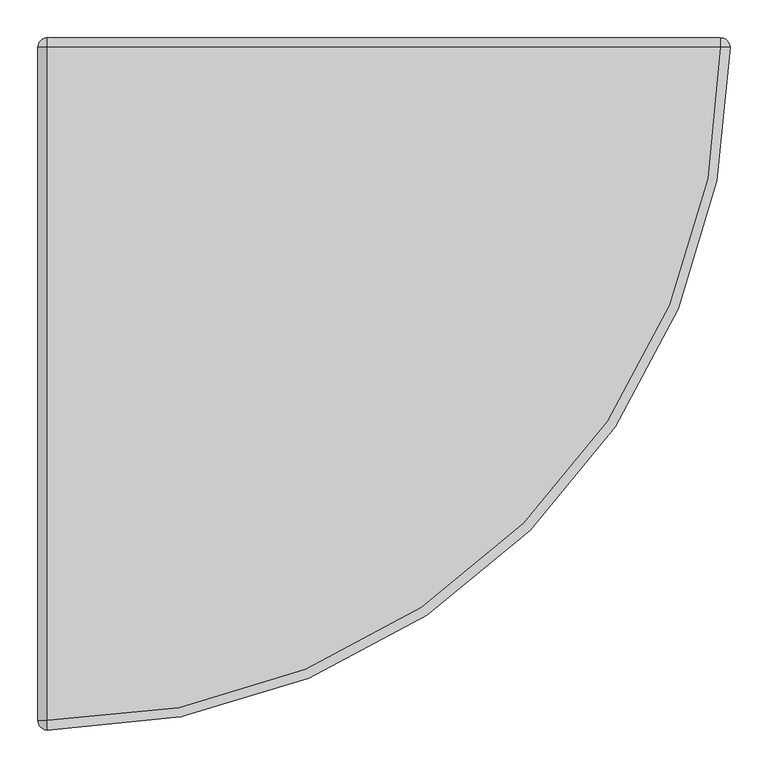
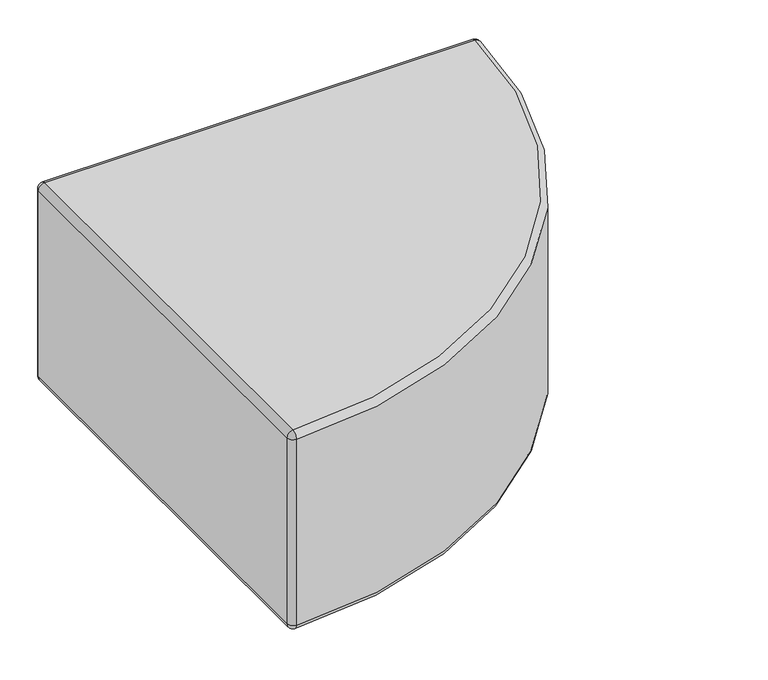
"""IFC4 building model written with IfcOpenShell, lengths in millimetres: furniture geometry, KFI Studios - Conversa - Corner Seat : KFI Studios - Conversa - Corner Seat."""

import ifcopenshell
import ifcopenshell.guid

model = None  # the IFC model being written
_history = None  # IfcOwnerHistory: only IFC2X3 demands one
_inside = {}  # id of a spatial element -> (the spatial element, [elements in it])
_under = {}  # id of a project, library or spatial element -> (it, [spatial elements below it])
_declared = {}  # id of a project -> (the project, [libraries it declares])
_typed = {}  # id of a type object -> (the type object, [elements of that type])
_made_of = {}  # id of a material, layer set ... -> (it, [elements and type objects made of it])


def new_model(schema):
    """Start an empty IFC model of exactly this schema.

    Asked for "IFC4X3", IfcOpenShell would pick the latest addendum, in which some entities
    have other attributes; the version numbers below select the first issue.
    IFC2X3 requires an IfcOwnerHistory on every rooted entity: one is made here for all.
    """
    global model, _history
    if schema == "IFC4X3":
        model = ifcopenshell.file(schema_version=(4, 3, 0, 0))
    else:
        model = ifcopenshell.file(schema=schema)
    _inside.clear()
    _under.clear()
    _declared.clear()
    _typed.clear()
    _made_of.clear()
    _history = None
    if model.schema == "IFC2X3":
        org = make("IfcOrganization", Name="unknown")
        user = make(
            "IfcPersonAndOrganization",
            ThePerson=make("IfcPerson", FamilyName="unknown"),
            TheOrganization=org,
        )
        app = make(
            "IfcApplication",
            ApplicationDeveloper=org,
            Version="unknown",
            ApplicationFullName="unknown",
            ApplicationIdentifier="unknown",
        )
        _history = make(
            "IfcOwnerHistory",
            OwningUser=user,
            OwningApplication=app,
            ChangeAction="ADDED",
            CreationDate=0,
        )
    return model


def make(cls, **values):
    """One entity of the class cls with the attributes given. An attribute that is None is left unset."""
    return model.create_entity(
        cls, **{name: value for name, value in values.items() if value is not None}
    )


def rooted(cls, **values):
    """An entity with a GlobalId (a new one), such as an element, a storey or a relation."""
    return make(cls, GlobalId=ifcopenshell.guid.new(), OwnerHistory=_history, **values)


def si_unit(unit_type, name, prefix=None):
    """IfcSIUnit, for example si_unit("LENGTHUNIT", "METRE", prefix="MILLI")."""
    return make("IfcSIUnit", UnitType=unit_type, Prefix=prefix, Name=name)


def assignment(units):
    """IfcUnitAssignment: the units of a project."""
    return None if units is None else make("IfcUnitAssignment", Units=units)


def point(xyz):
    """IfcCartesianPoint."""
    return None if xyz is None else make("IfcCartesianPoint", Coordinates=xyz)


def direction(xyz):
    """IfcDirection."""
    return None if xyz is None else make("IfcDirection", DirectionRatios=xyz)


def frame(location, z_axis=None, x_axis=None):
    """IfcAxis2Placement3D, a coordinate frame: its origin and axes. An axis left out is left unset."""
    return make(
        "IfcAxis2Placement3D",
        Location=point(location),
        Axis=direction(z_axis),
        RefDirection=direction(x_axis),
    )


def origin():
    """The frame at (0, 0, 0) with its axes left unset."""
    return frame((0.0, 0.0, 0.0))


def place(relative_to, where):
    """IfcLocalPlacement: puts the frame where relative to a parent placement (None: the world)."""
    return make(
        "IfcLocalPlacement", PlacementRelTo=relative_to, RelativePlacement=where
    )


def context(
    kind, dimensions, precision=None, world=None, true_north=None, identifier=None
):
    """IfcGeometricRepresentationContext, for example the 3D "Model" context."""
    return make(
        "IfcGeometricRepresentationContext",
        ContextIdentifier=identifier,
        ContextType=kind,
        CoordinateSpaceDimension=dimensions,
        Precision=precision,
        WorldCoordinateSystem=world,
        TrueNorth=true_north,
    )


def project(units=None, contexts=None):
    """IfcProject with its units and contexts."""
    return rooted(
        "IfcProject",
        Name="project",
        RepresentationContexts=contexts,
        UnitsInContext=assignment(units),
    )


def spatial(cls, under=None, at=None, **own):
    """A site, building, storey or space (cls), placed at a placement, below another one or the project."""
    s = rooted(cls, ObjectPlacement=at, **own)
    if under is not None:
        _under.setdefault(under.id(), (under, []))[1].append(s)
    return s


def polyline(points):
    """IfcPolyline through the points."""
    return make("IfcPolyline", Points=[point(p) for p in points])


def circle_curve(where, radius):
    """IfcCircle in the frame where."""
    return make("IfcCircle", Position=where, Radius=radius)


def ellipse_curve(where, semi_axis1, semi_axis2):
    """IfcEllipse in the frame where."""
    return make(
        "IfcEllipse", Position=where, SemiAxis1=semi_axis1, SemiAxis2=semi_axis2
    )


def trimmed(basis, trim1, trim2, sense, master):
    """IfcTrimmedCurve: the piece of a basis curve between two trims."""
    return make(
        "IfcTrimmedCurve",
        BasisCurve=basis,
        Trim1=trim1,
        Trim2=trim2,
        SenseAgreement=sense,
        MasterRepresentation=master,
    )


def shape(context_of_items, identifier, shape_type, items):
    """IfcShapeRepresentation: the items that make up one representation, for example the "Body"."""
    return make(
        "IfcShapeRepresentation",
        ContextOfItems=context_of_items,
        RepresentationIdentifier=identifier,
        RepresentationType=shape_type,
        Items=items,
    )


def source(mapping_origin, context_of_items, identifier, shape_type, items):
    """IfcRepresentationMap: a shape defined once, which mapped items show again and again."""
    return make(
        "IfcRepresentationMap",
        MappingOrigin=mapping_origin,
        MappedRepresentation=shape(context_of_items, identifier, shape_type, items),
    )


def transform(
    local_origin,
    x_axis=None,
    y_axis=None,
    z_axis=None,
    scale=None,
    scale2=None,
    scale3=None,
    uniform=True,
):
    """IfcCartesianTransformationOperator3D, or its non-uniform kind. x_axis, y_axis, z_axis: its Axis1, 2, 3."""
    if uniform:
        return make(
            "IfcCartesianTransformationOperator3D",
            Axis1=direction(x_axis),
            Axis2=direction(y_axis),
            LocalOrigin=point(local_origin),
            Scale=scale,
            Axis3=direction(z_axis),
        )
    return make(
        "IfcCartesianTransformationOperator3DnonUniform",
        Axis1=direction(x_axis),
        Axis2=direction(y_axis),
        LocalOrigin=point(local_origin),
        Scale=scale,
        Axis3=direction(z_axis),
        Scale2=scale2,
        Scale3=scale3,
    )


def mapped(mapping_source, mapping_target):
    """IfcMappedItem: shows the shape of a source again, moved by a transform."""
    return make(
        "IfcMappedItem", MappingSource=mapping_source, MappingTarget=mapping_target
    )


def made_of(thing, what):
    """Note that an element or type object is made of a material, layer set ...; save() writes the relation."""
    if what is not None:
        _made_of.setdefault(what.id(), (what, []))[1].append(thing)
    return thing


def element(
    cls,
    number,
    at=None,
    inside=None,
    cuts=None,
    type_object=None,
    material=None,
    context=None,
    identifier="Body",
    shape_type=None,
    held_by="IfcProductDefinitionShape",
    body=None,
    shapes=None,
    **own,
):
    """One element of the class cls, such as IfcWall. Its Tag is "e" and its number.

    at: its placement. inside: the storey or other place that contains it. cuts: it is an
    opening in that element (IfcRelVoidsElement). A single representation is given by context,
    identifier, shape_type and body (its items); several are given by shapes. held_by: the class
    of the entity that holds the representations. save() writes the other relations.
    """
    e = rooted(cls, Tag="e%d" % number, ObjectPlacement=at, **own)
    if body is not None:
        shapes = [shape(context, identifier, shape_type, body)]
    if shapes is not None:
        e.Representation = make(held_by, Representations=shapes)
    if inside is not None:
        _inside.setdefault(inside.id(), (inside, []))[1].append(e)
    if cuts is not None:
        rooted(
            "IfcRelVoidsElement", RelatingBuildingElement=cuts, RelatedOpeningElement=e
        )
    if type_object is not None:
        _typed.setdefault(type_object.id(), (type_object, []))[1].append(e)
    return made_of(e, material)


def aggregate(whole, parts):
    """IfcRelAggregates: a whole, such as a stair, and the parts it consists of."""
    return rooted("IfcRelAggregates", RelatingObject=whole, RelatedObjects=parts)


def save(model, path):
    """Write the relations noted so far, then the file.

    IfcRelAggregates (storeys below a building ...), IfcRelContainedInSpatialStructure (elements
    in a storey), IfcRelDefinesByType, IfcRelAssociatesMaterial and IfcRelDeclares: one each for
    every whole, place, type object, material and project.
    """
    for whole, parts in _under.values():
        aggregate(whole, parts)
    for where, things in _inside.values():
        rooted(
            "IfcRelContainedInSpatialStructure",
            RelatedElements=things,
            RelatingStructure=where,
        )
    for kind, things in _typed.values():
        rooted("IfcRelDefinesByType", RelatedObjects=things, RelatingType=kind)
    for what, things in _made_of.values():
        rooted("IfcRelAssociatesMaterial", RelatedObjects=things, RelatingMaterial=what)
    for by, libraries in _declared.values():
        rooted("IfcRelDeclares", RelatingContext=by, RelatedDefinitions=libraries)
    model.write(path)


def plane_surface(at):
    """IfcPlane: the flat surface through the origin of the frame at, square to its z axis."""
    return make("IfcPlane", Position=at)


def cylinder_surface(at, radius):
    """IfcCylindricalSurface: all points at the distance radius from the z axis of the frame at."""
    return make("IfcCylindricalSurface", Position=at, Radius=radius)


def revolved_surface(curve, axis_point, axis_direction):
    """IfcSurfaceOfRevolution: the curve turned about the line through axis_point along axis_direction."""
    return make(
        "IfcSurfaceOfRevolution",
        SweptCurve=make("IfcArbitraryOpenProfileDef", ProfileType="CURVE", Curve=curve),
        AxisPosition=make("IfcAxis1Placement", Location=point(axis_point), Axis=direction(axis_direction)),
    )


def advanced_brep(points, edges, surfaces, faces):
    """IfcAdvancedBrep: a solid bounded by faces that lie on surfaces and meet in shared edges.

    An edge is (start, end): straight between two places in points (the first is 0);
    or (start, end, curve); or (start, end, curve, False) where it runs against its curve.
    A face is (place in surfaces, loops), or (place, loops, False) where it looks against
    its surface's normal. A loop lists edges by number (the first is 1), with a minus sign
    where the edge is run from its end to its start. The first loop is the outer one.
    """
    corners = [point(p) for p in points]
    vertices = [make("IfcVertexPoint", VertexGeometry=c) for c in corners]
    made = []
    for start, end, *more in edges:
        made.append(
            make(
                "IfcEdgeCurve",
                EdgeStart=vertices[start],
                EdgeEnd=vertices[end],
                EdgeGeometry=more[0] if more else make("IfcPolyline", Points=[corners[start], corners[end]]),
                SameSense=more[1] if len(more) > 1 else True,
            )
        )
    hull = []
    for where, loops, *sense in faces:
        bounds = []
        for j, loop in enumerate(loops):
            ring = [make("IfcOrientedEdge", EdgeElement=made[abs(k) - 1], Orientation=k > 0) for k in loop]
            bounds.append(
                make(
                    "IfcFaceOuterBound" if j == 0 else "IfcFaceBound",
                    Bound=make("IfcEdgeLoop", EdgeList=ring),
                    Orientation=True,
                )
            )
        hull.append(make("IfcAdvancedFace", Bounds=bounds, FaceSurface=surfaces[where], SameSense=sense[0] if sense else True))
    return make("IfcAdvancedBrep", Outer=make("IfcClosedShell", CfsFaces=hull))


def furniture_429ba365(model_context):
    return source(origin(), model_context, "Body", "AdvancedBrep", [
        advanced_brep(
        [(-356.8604105, -365.125, 25.4), (-373.3895895, -365.125, 25.4), (-365.125, -365.125, 25.4), (-356.8604105, -365.125, 14.2843611), (-373.3895895, -365.125, 14.2843611), (-358.4623646, -365.125, 14.2843611), (-371.7876354, -365.125, 14.2843611), (-358.4623646, -365.125, 12.7064551), (-371.7876354, -365.125, 12.7064551), (-356.8609329, -365.125, 12.7064551), (-373.3890671, -365.125, 12.7064551), (-347.6758785, -365.125, 3.1950529), (-382.5741215, -365.125, 3.1950529), (-347.6758785, -365.125, 0.0), (-382.5741215, -365.125, 0.0), (-365.125, -365.125, 0.0)],
        [
            (0, 1, circle_curve(frame((-365.125, -365.125, 25.4), z_axis=(0.0, 0.0, 1.0), x_axis=(-1.0, 0.0, 0.0)), 8.2645895)),
            (1, 2),
            (2, 0),
            (1, 0, circle_curve(frame((-365.125, -365.125, 25.4), z_axis=(0.0, 0.0, 1.0), x_axis=(-1.0, 0.0, 0.0)), 8.2645895)),
            (3, 4, circle_curve(frame((-365.125, -365.125, 14.2843611), z_axis=(0.0, 0.0, 1.0), x_axis=(-1.0, 0.0, 0.0)), 8.2645895)),
            (4, 1),
            (0, 3),
            (4, 3, circle_curve(frame((-365.125, -365.125, 14.2843611), z_axis=(0.0, 0.0, 1.0), x_axis=(-1.0, 0.0, 0.0)), 8.2645895)),
            (5, 6, circle_curve(frame((-365.125, -365.125, 14.2843611), z_axis=(0.0, 0.0, 1.0), x_axis=(-1.0, 0.0, 0.0)), 6.6626354)),
            (6, 4),
            (3, 5),
            (6, 5, circle_curve(frame((-365.125, -365.125, 14.2843611), z_axis=(0.0, 0.0, 1.0), x_axis=(-1.0, 0.0, 0.0)), 6.6626354)),
            (7, 8, circle_curve(frame((-365.125, -365.125, 12.7064551), z_axis=(0.0, 0.0, 1.0), x_axis=(-1.0, 0.0, 0.0)), 6.6626354)),
            (8, 6),
            (5, 7),
            (8, 7, circle_curve(frame((-365.125, -365.125, 12.7064551), z_axis=(0.0, 0.0, 1.0), x_axis=(-1.0, 0.0, 0.0)), 6.6626354)),
            (9, 10, circle_curve(frame((-365.125, -365.125, 12.7064551), z_axis=(0.0, 0.0, 1.0), x_axis=(-1.0, 0.0, 0.0)), 8.2640671)),
            (10, 8),
            (7, 9),
            (10, 9, circle_curve(frame((-365.125, -365.125, 12.7064551), z_axis=(0.0, 0.0, 1.0), x_axis=(-1.0, 0.0, 0.0)), 8.2640671)),
            (11, 12, circle_curve(frame((-365.125, -365.125, 3.1950529), z_axis=(0.0, 0.0, 1.0), x_axis=(-1.0, 0.0, 0.0)), 17.4491215)),
            (12, 10),
            (9, 11),
            (12, 11, circle_curve(frame((-365.125, -365.125, 3.1950529), z_axis=(0.0, 0.0, 1.0), x_axis=(-1.0, 0.0, 0.0)), 17.4491215)),
            (13, 14, circle_curve(frame((-365.125, -365.125, 0.0), z_axis=(0.0, 0.0, 1.0), x_axis=(-1.0, 0.0, 0.0)), 17.4491215)),
            (14, 12),
            (11, 13),
            (14, 13, circle_curve(frame((-365.125, -365.125, 0.0), z_axis=(0.0, 0.0, 1.0), x_axis=(-1.0, 0.0, 0.0)), 17.4491215)),
            (15, 14),
            (13, 15),
        ],
        [
            plane_surface(frame((-365.125, -365.125, 25.4), z_axis=(0.0, 0.0, 1.0), x_axis=(-1.0, 0.0, 0.0))),
            cylinder_surface(frame((-365.125, -365.125, 33.820929), z_axis=(0.0, 0.0, -1.0), x_axis=(-1.0, 0.0, 0.0)), 8.2645895),
            plane_surface(frame((-365.125, -365.125, 14.2843611), z_axis=(0.0, 0.0, -1.0), x_axis=(-1.0, 0.0, 0.0))),
            cylinder_surface(frame((-365.125, -365.125, 33.820929), z_axis=(0.0, 0.0, -1.0), x_axis=(-1.0, 0.0, 0.0)), 6.6626354),
            plane_surface(frame((-365.125, -365.125, 12.7064551), z_axis=(0.0, 0.0, 1.0), x_axis=(-1.0, 0.0, 0.0))),
            revolved_surface(polyline([(-373.3890671, -365.125, 12.7064551), (-382.5741215, -365.125, 3.1950529)]), (-365.125, -365.125, 33.820929), (0.0, 0.0, -1.0)),
            cylinder_surface(frame((-365.125, -365.125, 33.820929), z_axis=(0.0, 0.0, -1.0), x_axis=(-1.0, 0.0, 0.0)), 17.4491215),
            plane_surface(frame((-365.125, -365.125, 0.0), z_axis=(0.0, 0.0, -1.0), x_axis=(-1.0, 0.0, 0.0))),
        ],
        [
            (0, [[1, 2, 3]]),
            (0, [[4, -3, -2]]),
            (1, [[5, 6, -1, 7]]),
            (1, [[8, -7, -4, -6]]),
            (2, [[9, 10, -5, 11]]),
            (2, [[12, -11, -8, -10]]),
            (3, [[13, 14, -9, 15]]),
            (3, [[16, -15, -12, -14]]),
            (4, [[17, 18, -13, 19]]),
            (4, [[20, -19, -16, -18]]),
            (5, [[21, 22, -17, 23]]),
            (5, [[24, -23, -20, -22]]),
            (6, [[25, 26, -21, 27]]),
            (6, [[28, -27, -24, -26]]),
            (7, [[29, -25, 30]]),
            (7, [[-30, -28, -29]]),
        ],
    ),
        advanced_brep(
        [(356.8604105, 365.125, 25.4), (365.125, 365.125, 25.4), (373.3895895, 365.125, 25.4), (356.8604105, 365.125, 14.2843611), (373.3895895, 365.125, 14.2843611), (358.4623646, 365.125, 14.2843611), (371.7876354, 365.125, 14.2843611), (358.4623646, 365.125, 12.7064551), (371.7876354, 365.125, 12.7064551), (356.8609329, 365.125, 12.7064551), (373.3890671, 365.125, 12.7064551), (347.6758785, 365.125, 3.1950529), (382.5741215, 365.125, 3.1950529), (347.6758785, 365.125, 0.0), (382.5741215, 365.125, 0.0), (365.125, 365.125, 0.0)],
        [
            (0, 1),
            (1, 2),
            (2, 0, circle_curve(frame((365.125, 365.125, 25.4), z_axis=(0.0, 0.0, 1.0), x_axis=(1.0, 0.0, 0.0)), 8.2645895)),
            (0, 2, circle_curve(frame((365.125, 365.125, 25.4), z_axis=(0.0, 0.0, 1.0), x_axis=(1.0, 0.0, 0.0)), 8.2645895)),
            (3, 0),
            (2, 4),
            (4, 3, circle_curve(frame((365.125, 365.125, 14.2843611), z_axis=(0.0, 0.0, 1.0), x_axis=(1.0, 0.0, 0.0)), 8.2645895)),
            (3, 4, circle_curve(frame((365.125, 365.125, 14.2843611), z_axis=(0.0, 0.0, 1.0), x_axis=(1.0, 0.0, 0.0)), 8.2645895)),
            (5, 3),
            (4, 6),
            (6, 5, circle_curve(frame((365.125, 365.125, 14.2843611), z_axis=(0.0, 0.0, 1.0), x_axis=(1.0, 0.0, 0.0)), 6.6626354)),
            (5, 6, circle_curve(frame((365.125, 365.125, 14.2843611), z_axis=(0.0, 0.0, 1.0), x_axis=(1.0, 0.0, 0.0)), 6.6626354)),
            (7, 5),
            (6, 8),
            (8, 7, circle_curve(frame((365.125, 365.125, 12.7064551), z_axis=(0.0, 0.0, 1.0), x_axis=(1.0, 0.0, 0.0)), 6.6626354)),
            (7, 8, circle_curve(frame((365.125, 365.125, 12.7064551), z_axis=(0.0, 0.0, 1.0), x_axis=(1.0, 0.0, 0.0)), 6.6626354)),
            (9, 7),
            (8, 10),
            (10, 9, circle_curve(frame((365.125, 365.125, 12.7064551), z_axis=(0.0, 0.0, 1.0), x_axis=(1.0, 0.0, 0.0)), 8.2640671)),
            (9, 10, circle_curve(frame((365.125, 365.125, 12.7064551), z_axis=(0.0, 0.0, 1.0), x_axis=(1.0, 0.0, 0.0)), 8.2640671)),
            (11, 9),
            (10, 12),
            (12, 11, circle_curve(frame((365.125, 365.125, 3.1950529), z_axis=(0.0, 0.0, 1.0), x_axis=(1.0, 0.0, 0.0)), 17.4491215)),
            (11, 12, circle_curve(frame((365.125, 365.125, 3.1950529), z_axis=(0.0, 0.0, 1.0), x_axis=(1.0, 0.0, 0.0)), 17.4491215)),
            (13, 11),
            (12, 14),
            (14, 13, circle_curve(frame((365.125, 365.125, 0.0), z_axis=(0.0, 0.0, 1.0), x_axis=(1.0, 0.0, 0.0)), 17.4491215)),
            (13, 14, circle_curve(frame((365.125, 365.125, 0.0), z_axis=(0.0, 0.0, 1.0), x_axis=(1.0, 0.0, 0.0)), 17.4491215)),
            (15, 13),
            (14, 15),
        ],
        [
            plane_surface(frame((365.125, 365.125, 25.4), z_axis=(0.0, 0.0, 1.0), x_axis=(1.0, 0.0, 0.0))),
            cylinder_surface(frame((365.125, 365.125, 33.820929), z_axis=(0.0, 0.0, -1.0), x_axis=(1.0, 0.0, 0.0)), 8.2645895),
            plane_surface(frame((365.125, 365.125, 14.2843611), z_axis=(0.0, 0.0, -1.0), x_axis=(1.0, 0.0, 0.0))),
            cylinder_surface(frame((365.125, 365.125, 33.820929), z_axis=(0.0, 0.0, -1.0), x_axis=(1.0, 0.0, 0.0)), 6.6626354),
            plane_surface(frame((365.125, 365.125, 12.7064551), z_axis=(0.0, 0.0, 1.0), x_axis=(1.0, 0.0, 0.0))),
            revolved_surface(polyline([(373.3890671, 365.125, 12.7064551), (382.5741215, 365.125, 3.1950529)]), (365.125, 365.125, 33.820929), (0.0, 0.0, -1.0)),
            cylinder_surface(frame((365.125, 365.125, 33.820929), z_axis=(0.0, 0.0, -1.0), x_axis=(1.0, 0.0, 0.0)), 17.4491215),
            plane_surface(frame((365.125, 365.125, 0.0), z_axis=(0.0, 0.0, -1.0), x_axis=(1.0, 0.0, 0.0))),
        ],
        [
            (0, [[1, 2, 3]]),
            (0, [[-2, -1, 4]]),
            (1, [[5, -3, 6, 7]]),
            (1, [[-6, -4, -5, 8]]),
            (2, [[9, -7, 10, 11]]),
            (2, [[-10, -8, -9, 12]]),
            (3, [[13, -11, 14, 15]]),
            (3, [[-14, -12, -13, 16]]),
            (4, [[17, -15, 18, 19]]),
            (4, [[-18, -16, -17, 20]]),
            (5, [[21, -19, 22, 23]]),
            (5, [[-22, -20, -21, 24]]),
            (6, [[25, -23, 26, 27]]),
            (6, [[-26, -24, -25, 28]]),
            (7, [[29, -27, 30]]),
            (7, [[-30, -28, -29]]),
        ],
    ),
        advanced_brep(
        [(-356.8604105, 365.125, 25.4), (-373.3895895, 365.125, 25.4), (-365.125, 365.125, 25.4), (-356.8604105, 365.125, 14.2843611), (-373.3895895, 365.125, 14.2843611), (-358.4623646, 365.125, 14.2843611), (-371.7876354, 365.125, 14.2843611), (-358.4623646, 365.125, 12.7064551), (-371.7876354, 365.125, 12.7064551), (-356.8609329, 365.125, 12.7064551), (-373.3890671, 365.125, 12.7064551), (-347.6758785, 365.125, 3.1950529), (-382.5741215, 365.125, 3.1950529), (-347.6758785, 365.125, 0.0), (-382.5741215, 365.125, 0.0), (-365.125, 365.125, 0.0)],
        [
            (0, 1, circle_curve(frame((-365.125, 365.125, 25.4), z_axis=(0.0, 0.0, 1.0), x_axis=(-1.0, 0.0, 0.0)), 8.2645895)),
            (1, 2),
            (2, 0),
            (1, 0, circle_curve(frame((-365.125, 365.125, 25.4), z_axis=(0.0, 0.0, 1.0), x_axis=(-1.0, 0.0, 0.0)), 8.2645895)),
            (3, 4, circle_curve(frame((-365.125, 365.125, 14.2843611), z_axis=(0.0, 0.0, 1.0), x_axis=(-1.0, 0.0, 0.0)), 8.2645895)),
            (4, 1),
            (0, 3),
            (4, 3, circle_curve(frame((-365.125, 365.125, 14.2843611), z_axis=(0.0, 0.0, 1.0), x_axis=(-1.0, 0.0, 0.0)), 8.2645895)),
            (5, 6, circle_curve(frame((-365.125, 365.125, 14.2843611), z_axis=(0.0, 0.0, 1.0), x_axis=(-1.0, 0.0, 0.0)), 6.6626354)),
            (6, 4),
            (3, 5),
            (6, 5, circle_curve(frame((-365.125, 365.125, 14.2843611), z_axis=(0.0, 0.0, 1.0), x_axis=(-1.0, 0.0, 0.0)), 6.6626354)),
            (7, 8, circle_curve(frame((-365.125, 365.125, 12.7064551), z_axis=(0.0, 0.0, 1.0), x_axis=(-1.0, 0.0, 0.0)), 6.6626354)),
            (8, 6),
            (5, 7),
            (8, 7, circle_curve(frame((-365.125, 365.125, 12.7064551), z_axis=(0.0, 0.0, 1.0), x_axis=(-1.0, 0.0, 0.0)), 6.6626354)),
            (9, 10, circle_curve(frame((-365.125, 365.125, 12.7064551), z_axis=(0.0, 0.0, 1.0), x_axis=(-1.0, 0.0, 0.0)), 8.2640671)),
            (10, 8),
            (7, 9),
            (10, 9, circle_curve(frame((-365.125, 365.125, 12.7064551), z_axis=(0.0, 0.0, 1.0), x_axis=(-1.0, 0.0, 0.0)), 8.2640671)),
            (11, 12, circle_curve(frame((-365.125, 365.125, 3.1950529), z_axis=(0.0, 0.0, 1.0), x_axis=(-1.0, 0.0, 0.0)), 17.4491215)),
            (12, 10),
            (9, 11),
            (12, 11, circle_curve(frame((-365.125, 365.125, 3.1950529), z_axis=(0.0, 0.0, 1.0), x_axis=(-1.0, 0.0, 0.0)), 17.4491215)),
            (13, 14, circle_curve(frame((-365.125, 365.125, 0.0), z_axis=(0.0, 0.0, 1.0), x_axis=(-1.0, 0.0, 0.0)), 17.4491215)),
            (14, 12),
            (11, 13),
            (14, 13, circle_curve(frame((-365.125, 365.125, 0.0), z_axis=(0.0, 0.0, 1.0), x_axis=(-1.0, 0.0, 0.0)), 17.4491215)),
            (15, 14),
            (13, 15),
        ],
        [
            plane_surface(frame((-365.125, 365.125, 25.4), z_axis=(0.0, 0.0, 1.0), x_axis=(-1.0, 0.0, 0.0))),
            cylinder_surface(frame((-365.125, 365.125, 33.820929), z_axis=(0.0, 0.0, -1.0), x_axis=(-1.0, 0.0, 0.0)), 8.2645895),
            plane_surface(frame((-365.125, 365.125, 14.2843611), z_axis=(0.0, 0.0, -1.0), x_axis=(-1.0, 0.0, 0.0))),
            cylinder_surface(frame((-365.125, 365.125, 33.820929), z_axis=(0.0, 0.0, -1.0), x_axis=(-1.0, 0.0, 0.0)), 6.6626354),
            plane_surface(frame((-365.125, 365.125, 12.7064551), z_axis=(0.0, 0.0, 1.0), x_axis=(-1.0, 0.0, 0.0))),
            revolved_surface(polyline([(-373.3890671, 365.125, 12.7064551), (-382.5741215, 365.125, 3.1950529)]), (-365.125, 365.125, 33.820929), (0.0, 0.0, -1.0)),
            cylinder_surface(frame((-365.125, 365.125, 33.820929), z_axis=(0.0, 0.0, -1.0), x_axis=(-1.0, 0.0, 0.0)), 17.4491215),
            plane_surface(frame((-365.125, 365.125, 0.0), z_axis=(0.0, 0.0, -1.0), x_axis=(-1.0, 0.0, 0.0))),
        ],
        [
            (0, [[1, 2, 3]]),
            (0, [[4, -3, -2]]),
            (1, [[5, 6, -1, 7]]),
            (1, [[8, -7, -4, -6]]),
            (2, [[9, 10, -5, 11]]),
            (2, [[12, -11, -8, -10]]),
            (3, [[13, 14, -9, 15]]),
            (3, [[16, -15, -12, -14]]),
            (4, [[17, 18, -13, 19]]),
            (4, [[20, -19, -16, -18]]),
            (5, [[21, 22, -17, 23]]),
            (5, [[24, -23, -20, -22]]),
            (6, [[25, 26, -21, 27]]),
            (6, [[28, -27, -24, -26]]),
            (7, [[29, -25, 30]]),
            (7, [[-30, -28, -29]]),
        ],
    ),
        advanced_brep(
        [(-444.5, -444.5, 457.2), (444.5, 444.5, 457.2), (-444.5, 444.5, 457.2), (-444.5, -457.2, 444.5), (457.2, 444.5, 444.5), (-444.5, -457.2, 38.1), (457.2, 444.5, 38.1), (-444.5, -444.5, 25.4), (444.5, 444.5, 25.4), (-444.5, 444.5, 25.4), (-457.2, 444.5, 444.5), (-457.2, -444.5, 444.5), (-457.2, -444.5, 38.1), (-457.2, 444.5, 38.1), (444.5, 457.2, 444.5), (-444.5, 457.2, 444.5), (-444.5, 457.2, 38.1), (444.5, 457.2, 38.1)],
        [
            (0, 1, circle_curve(frame((-444.5, 444.5, 457.2), z_axis=(0.0, 0.0, 1.0), x_axis=(1.0, 0.0, 0.0)), 889.0)),
            (1, 2),
            (2, 0),
            (0, 3, circle_curve(frame((-444.5, -444.5, 444.5), z_axis=(1.0, 0.0, 0.0), x_axis=(0.0, 1.0, 0.0)), 12.7)),
            (3, 4, circle_curve(frame((-444.5, 444.5, 444.5), z_axis=(0.0, 0.0, 1.0), x_axis=(1.0, 0.0, 0.0)), 901.7)),
            (4, 1, circle_curve(frame((444.5, 444.5, 444.5), z_axis=(0.0, -1.0, 0.0), x_axis=(-1.0, 0.0, 0.0)), 12.7)),
            (3, 5),
            (5, 6, circle_curve(frame((-444.5, 444.5, 38.1), z_axis=(0.0, 0.0, 1.0), x_axis=(1.0, 0.0, 0.0)), 901.7)),
            (6, 4),
            (5, 7, circle_curve(frame((-444.5, -444.5, 38.1), z_axis=(1.0, 0.0, 0.0), x_axis=(0.0, 1.0, 0.0)), 12.7)),
            (7, 8, circle_curve(frame((-444.5, 444.5, 25.4), z_axis=(0.0, 0.0, 1.0), x_axis=(1.0, 0.0, 0.0)), 889.0)),
            (8, 6, circle_curve(frame((444.5, 444.5, 38.1), z_axis=(0.0, -1.0, 0.0), x_axis=(-1.0, 0.0, 0.0)), 12.7)),
            (7, 9),
            (9, 8),
            (10, 11),
            (11, 0, circle_curve(frame((-444.5, -444.5, 444.5), z_axis=(0.0, 1.0, 0.0), x_axis=(-1.0, 0.0, 0.0)), 12.7)),
            (2, 10, circle_curve(frame((-444.5, 444.5, 444.5), z_axis=(0.0, -1.0, 0.0), x_axis=(-1.0, 0.0, 0.0)), 12.7)),
            (12, 13),
            (13, 9, circle_curve(frame((-444.5, 444.5, 38.1), z_axis=(0.0, -1.0, 0.0), x_axis=(-1.0, 0.0, 0.0)), 12.7)),
            (7, 12, circle_curve(frame((-444.5, -444.5, 38.1), z_axis=(0.0, 1.0, 0.0), x_axis=(-1.0, 0.0, 0.0)), 12.7)),
            (10, 13),
            (12, 11),
            (14, 15),
            (15, 2, circle_curve(frame((-444.5, 444.5, 444.5), z_axis=(1.0, 0.0, 0.0), x_axis=(0.0, 1.0, 0.0)), 12.7)),
            (1, 14, circle_curve(frame((444.5, 444.5, 444.5), z_axis=(-1.0, 0.0, 0.0), x_axis=(0.0, 1.0, 0.0)), 12.7)),
            (16, 17),
            (17, 8, circle_curve(frame((444.5, 444.5, 38.1), z_axis=(-1.0, 0.0, 0.0), x_axis=(0.0, 1.0, 0.0)), 12.7)),
            (9, 16, circle_curve(frame((-444.5, 444.5, 38.1), z_axis=(1.0, 0.0, 0.0), x_axis=(0.0, 1.0, 0.0)), 12.7)),
            (14, 17),
            (16, 15),
            (5, 12, circle_curve(frame((-444.5, -444.5, 38.1), z_axis=(0.0, 0.0, -1.0), x_axis=(-1.0, 0.0, 0.0)), 12.7)),
            (11, 3, circle_curve(frame((-444.5, -444.5, 444.5), z_axis=(0.0, 0.0, 1.0), x_axis=(-1.0, 0.0, 0.0)), 12.7)),
            (17, 6, circle_curve(frame((444.5, 444.5, 38.1), z_axis=(0.0, 0.0, -1.0), x_axis=(0.0, 1.0, 0.0)), 12.7)),
            (4, 14, circle_curve(frame((444.5, 444.5, 444.5), z_axis=(0.0, 0.0, 1.0), x_axis=(0.0, 1.0, 0.0)), 12.7)),
            (13, 16, circle_curve(frame((-444.5, 444.5, 38.1), z_axis=(0.0, 0.0, -1.0), x_axis=(0.0, 1.0, 0.0)), 12.7)),
            (15, 10, circle_curve(frame((-444.5, 444.5, 444.5), z_axis=(0.0, 0.0, 1.0), x_axis=(0.0, 1.0, 0.0)), 12.7)),
        ],
        [
            plane_surface(frame((-444.5, 444.5, 457.2), z_axis=(0.0, 0.0, 1.0), x_axis=(1.0, 0.0, 0.0))),
            revolved_surface(trimmed(ellipse_curve(frame((444.5, 444.5, 444.5), z_axis=(0.0, 1.0, 0.0), x_axis=(-1.0, 0.0, 0.0)), 12.7, 12.7), [point((444.5, 444.5, 457.2))], [point((457.2, 444.5, 444.5))], True, "CARTESIAN"), (-444.5, 444.5, 457.2), (0.0, 0.0, -1.0)),
            cylinder_surface(frame((-444.5, 444.5, 457.2), z_axis=(0.0, 0.0, -1.0), x_axis=(1.0, 0.0, 0.0)), 901.7),
            revolved_surface(trimmed(ellipse_curve(frame((444.5, 444.5, 38.1), z_axis=(0.0, 1.0, 0.0), x_axis=(-1.0, 0.0, 0.0)), 12.7, 12.7), [point((457.2, 444.5, 38.1))], [point((444.5, 444.5, 25.4))], True, "CARTESIAN"), (-444.5, 444.5, 457.2), (0.0, 0.0, -1.0)),
            plane_surface(frame((-444.5, 444.5, 25.4), z_axis=(0.0, 0.0, -1.0), x_axis=(1.0, 0.0, 0.0))),
            cylinder_surface(frame((-444.5, -444.5, 444.5), z_axis=(0.0, 1.0, 0.0), x_axis=(-1.0, 0.0, 0.0)), 12.7),
            cylinder_surface(frame((-444.5, -444.5, 38.1), z_axis=(0.0, 1.0, 0.0), x_axis=(-1.0, 0.0, 0.0)), 12.7),
            plane_surface(frame((-457.2, 444.5, 38.1), z_axis=(-1.0, 0.0, 0.0), x_axis=(0.0, -1.0, 0.0))),
            cylinder_surface(frame((444.5, 444.5, 444.5), z_axis=(-1.0, 0.0, 0.0), x_axis=(0.0, 1.0, 0.0)), 12.7),
            cylinder_surface(frame((444.5, 444.5, 38.1), z_axis=(-1.0, 0.0, 0.0), x_axis=(0.0, 1.0, 0.0)), 12.7),
            plane_surface(frame((-444.5, 457.2, 444.5), z_axis=(0.0, 1.0, 0.0), x_axis=(1.0, 0.0, 0.0))),
            revolved_surface(trimmed(ellipse_curve(frame((-444.5, -444.5, 38.1), z_axis=(0.0, 1.0, 0.0), x_axis=(-1.0, 0.0, 0.0)), 12.7, 12.7), [point((-444.5, -444.5, 25.4))], [point((-457.2, -444.5, 38.1))], True, "CARTESIAN"), (-444.5, -444.5, 457.2), (0.0, 0.0, 1.0)),
            revolved_surface(trimmed(ellipse_curve(frame((-444.5, -444.5, 444.5), z_axis=(0.0, 1.0, 0.0), x_axis=(-1.0, 0.0, 0.0)), 12.7, 12.7), [point((-457.2, -444.5, 444.5))], [point((-444.5, -444.5, 457.2))], True, "CARTESIAN"), (-444.5, -444.5, 457.2), (0.0, 0.0, 1.0)),
            cylinder_surface(frame((-444.5, -444.5, 457.2), z_axis=(0.0, 0.0, 1.0), x_axis=(-1.0, 0.0, 0.0)), 12.7),
            revolved_surface(trimmed(ellipse_curve(frame((444.5, 444.5, 38.1), z_axis=(-1.0, 0.0, 0.0), x_axis=(0.0, 1.0, 0.0)), 12.7, 12.7), [point((444.5, 457.2, 38.1))], [point((444.5, 444.5, 25.4))], True, "CARTESIAN"), (444.5, 444.5, 457.2), (0.0, 0.0, -1.0)),
            revolved_surface(trimmed(ellipse_curve(frame((444.5, 444.5, 444.5), z_axis=(-1.0, 0.0, 0.0), x_axis=(0.0, 1.0, 0.0)), 12.7, 12.7), [point((444.5, 444.5, 457.2))], [point((444.5, 457.2, 444.5))], True, "CARTESIAN"), (444.5, 444.5, 457.2), (0.0, 0.0, -1.0)),
            cylinder_surface(frame((444.5, 444.5, 457.2), z_axis=(0.0, 0.0, -1.0), x_axis=(0.0, 1.0, 0.0)), 12.7),
            revolved_surface(trimmed(ellipse_curve(frame((-444.5, 444.5, 38.1), z_axis=(1.0, 0.0, 0.0), x_axis=(0.0, 1.0, 0.0)), 12.7, 12.7), [point((-444.5, 444.5, 25.4))], [point((-444.5, 457.2, 38.1))], True, "CARTESIAN"), (-444.5, 444.5, 457.2), (0.0, 0.0, 1.0)),
            revolved_surface(trimmed(ellipse_curve(frame((-444.5, 444.5, 444.5), z_axis=(1.0, 0.0, 0.0), x_axis=(0.0, 1.0, 0.0)), 12.7, 12.7), [point((-444.5, 457.2, 444.5))], [point((-444.5, 444.5, 457.2))], True, "CARTESIAN"), (-444.5, 444.5, 457.2), (0.0, 0.0, 1.0)),
            cylinder_surface(frame((-444.5, 444.5, 457.2), z_axis=(0.0, 0.0, 1.0), x_axis=(0.0, 1.0, 0.0)), 12.7),
        ],
        [
            (0, [[1, 2, 3]]),
            (1, [[-1, 4, 5, 6]]),
            (2, [[-5, 7, 8, 9]]),
            (3, [[-8, 10, 11, 12]]),
            (4, [[-11, 13, 14]]),
            (5, [[15, 16, -3, 17]]),
            (6, [[18, 19, -13, 20]]),
            (7, [[-15, 21, -18, 22]]),
            (8, [[23, 24, -2, 25]]),
            (9, [[26, 27, -14, 28]]),
            (10, [[-23, 29, -26, 30]]),
            (11, [[31, -20, -10]]),
            (12, [[32, -4, -16]]),
            (13, [[-31, -7, -32, -22]]),
            (14, [[33, -12, -27]]),
            (15, [[34, -25, -6]]),
            (16, [[-33, -29, -34, -9]]),
            (17, [[35, -28, -19]]),
            (18, [[36, -17, -24]]),
            (19, [[-35, -21, -36, -30]]),
        ],
    ),
    ])


if __name__ == "__main__":
    model = new_model("IFC4")
    model_context = context("Model", 3, world=origin())
    ifc_project = project(units=[si_unit("LENGTHUNIT", "METRE", prefix="MILLI")], contexts=[model_context])
    site = spatial("IfcSite", under=ifc_project)
    building = spatial("IfcBuilding", under=site)
    placement = place(None, origin())
    furniture_shape = furniture_429ba365(model_context)
    element("IfcFurniture", 1, ObjectType="KFI Studios - Conversa - Corner Seat : KFI Studios - Conversa - Corner Seat", at=placement, inside=building, context=model_context, shape_type="MappedRepresentation", body=[
        mapped(furniture_shape, transform((0.0, 0.0, 0.0), x_axis=(1.0, 0.0, 0.0), y_axis=(0.0, 1.0, 0.0), z_axis=(0.0, 0.0, 1.0))),
    ])
    save(model, "model.ifc")
